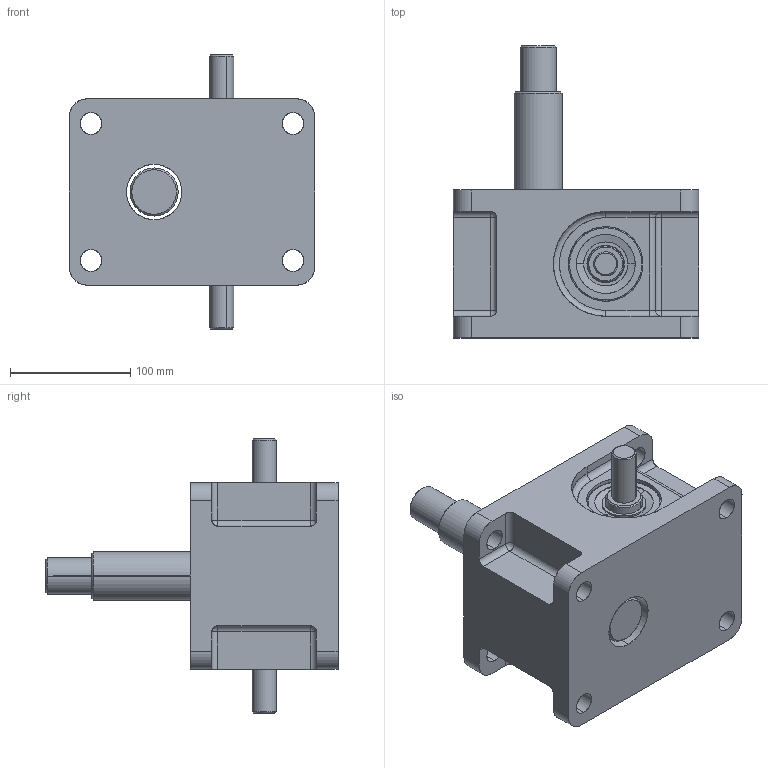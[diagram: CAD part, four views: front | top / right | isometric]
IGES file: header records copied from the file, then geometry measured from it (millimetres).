
Start section: SolidWorks IGES file using analytic representation for surfaces
Global section: file name: E:\3D\desenv\Solid Works\Levy\web\LMR\LMR5.0\LMR5.0.IGS; native system: SolidWorks 2008; preprocessor: SolidWorks 2008; author: User; date: 080730.211818; units: millimetre
Bounding box: 204 x 243 x 228 mm (x, y, z)
Surface area: 280323.4 mm2 (no closed solid volume)
Topology: 0 solids, 0 shells, 207 faces, 3988 edges, 3986 vertices
Faces by surface type: revolution 149, bspline 58
